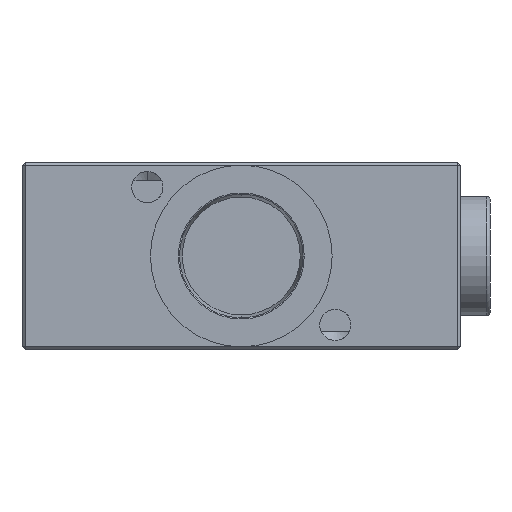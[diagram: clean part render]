
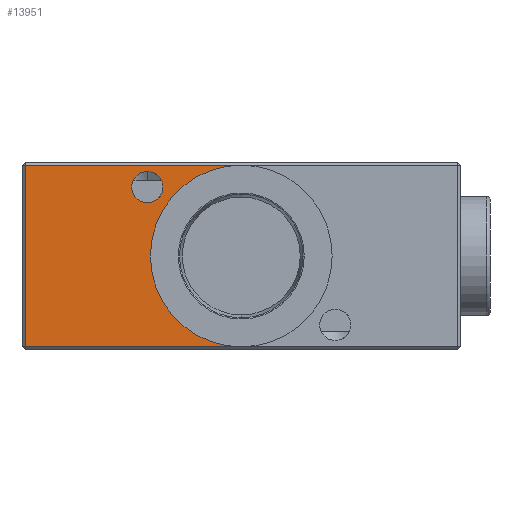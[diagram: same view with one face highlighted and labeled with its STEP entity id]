
A CAD part, left-side view. The second image highlights one B-rep face of the part: STEP entity #13951.
In plain terms, the highlighted planar face has unit normal (-1, 0, 0).
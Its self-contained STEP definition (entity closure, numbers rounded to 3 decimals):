
#54 = CARTESIAN_POINT ( 'NONE',  ( 0., 34.5, -14.5 ) ) ;
#543 = AXIS2_PLACEMENT_3D ( 'NONE', #2358, #12498, #3846 ) ;
#623 = DIRECTION ( 'NONE',  ( 0., 0., 1. ) ) ;
#1289 = EDGE_LOOP ( 'NONE', ( #2467, #13788, #1805, #6547 ) ) ;
#1638 = AXIS2_PLACEMENT_3D ( 'NONE', #10761, #2072, #12223 ) ;
#1805 = ORIENTED_EDGE ( 'NONE', *, *, #8481, .T. ) ;
#2072 = DIRECTION ( 'NONE',  ( -1., 0., 0. ) ) ;
#2358 = CARTESIAN_POINT ( 'NONE',  ( 0., 35., -15. ) ) ;
#2467 = ORIENTED_EDGE ( 'NONE', *, *, #8009, .F. ) ;
#2706 = LINE ( 'NONE', #12205, #10419 ) ;
#2735 = CIRCLE ( 'NONE', #1638, 14.5 ) ;
#3088 = VERTEX_POINT ( 'NONE', #12582 ) ;
#3142 = EDGE_LOOP ( 'NONE', ( #5136, #8141 ) ) ;
#3258 = DIRECTION ( 'NONE',  ( -1., 0., 0. ) ) ;
#3527 = DIRECTION ( 'NONE',  ( 0., 0., -1. ) ) ;
#3834 = VERTEX_POINT ( 'NONE', #54 ) ;
#3846 = DIRECTION ( 'NONE',  ( 0., 0., 1. ) ) ;
#5136 = ORIENTED_EDGE ( 'NONE', *, *, #7016, .F. ) ;
#6131 = VECTOR ( 'NONE', #18807, 1000. ) ;
#6359 = FACE_BOUND ( 'NONE', #3142, .T. ) ;
#6547 = ORIENTED_EDGE ( 'NONE', *, *, #7783, .T. ) ;
#6556 = CARTESIAN_POINT ( 'NONE',  ( 0., 15., 8.5 ) ) ;
#6642 = CIRCLE ( 'NONE', #10526, 2.5 ) ;
#6670 = PLANE ( 'NONE',  #543 ) ;
#6953 = CARTESIAN_POINT ( 'NONE',  ( 0., -35., -14.5 ) ) ;
#7016 = EDGE_CURVE ( 'NONE', #14522, #8619, #6642, .T. ) ;
#7129 = CIRCLE ( 'NONE', #17823, 2.5 ) ;
#7651 = CARTESIAN_POINT ( 'NONE',  ( 0., 0., 14.5 ) ) ;
#7783 = EDGE_CURVE ( 'NONE', #3834, #3088, #10712, .T. ) ;
#8009 = EDGE_CURVE ( 'NONE', #9290, #3088, #2735, .T. ) ;
#8141 = ORIENTED_EDGE ( 'NONE', *, *, #13870, .F. ) ;
#8249 = EDGE_CURVE ( 'NONE', #9290, #10067, #17235, .T. ) ;
#8481 = EDGE_CURVE ( 'NONE', #10067, #3834, #2706, .T. ) ;
#8619 = VERTEX_POINT ( 'NONE', #6556 ) ;
#8670 = CARTESIAN_POINT ( 'NONE',  ( 0., 35., 14.5 ) ) ;
#9290 = VERTEX_POINT ( 'NONE', #7651 ) ;
#9348 = DIRECTION ( 'NONE',  ( -1., 0., 0. ) ) ;
#10067 = VERTEX_POINT ( 'NONE', #17039 ) ;
#10218 = FACE_OUTER_BOUND ( 'NONE', #1289, .T. ) ;
#10246 = VECTOR ( 'NONE', #15653, 1000. ) ;
#10419 = VECTOR ( 'NONE', #3527, 1000. ) ;
#10526 = AXIS2_PLACEMENT_3D ( 'NONE', #11938, #3258, #13402 ) ;
#10712 = LINE ( 'NONE', #6953, #10246 ) ;
#10761 = CARTESIAN_POINT ( 'NONE',  ( 0., 0., 0. ) ) ;
#11938 = CARTESIAN_POINT ( 'NONE',  ( 0., 15., 11. ) ) ;
#12205 = CARTESIAN_POINT ( 'NONE',  ( 0., 34.5, -15. ) ) ;
#12223 = DIRECTION ( 'NONE',  ( 0., 0., 1. ) ) ;
#12482 = CARTESIAN_POINT ( 'NONE',  ( 0., 15., 13.5 ) ) ;
#12498 = DIRECTION ( 'NONE',  ( -1., 0., 0. ) ) ;
#12582 = CARTESIAN_POINT ( 'NONE',  ( 0., 0., -14.5 ) ) ;
#13402 = DIRECTION ( 'NONE',  ( 0., 0., 1. ) ) ;
#13788 = ORIENTED_EDGE ( 'NONE', *, *, #8249, .T. ) ;
#13870 = EDGE_CURVE ( 'NONE', #8619, #14522, #7129, .T. ) ;
#13951 = ADVANCED_FACE ( 'NONE', ( #10218, #6359 ), #6670, .T. ) ;
#14522 = VERTEX_POINT ( 'NONE', #12482 ) ;
#15653 = DIRECTION ( 'NONE',  ( 0., -1., 0. ) ) ;
#17039 = CARTESIAN_POINT ( 'NONE',  ( 0., 34.5, 14.5 ) ) ;
#17235 = LINE ( 'NONE', #8670, #6131 ) ;
#17823 = AXIS2_PLACEMENT_3D ( 'NONE', #18049, #9348, #623 ) ;
#18049 = CARTESIAN_POINT ( 'NONE',  ( 0., 15., 11. ) ) ;
#18807 = DIRECTION ( 'NONE',  ( 0., 1., 0. ) ) ;
